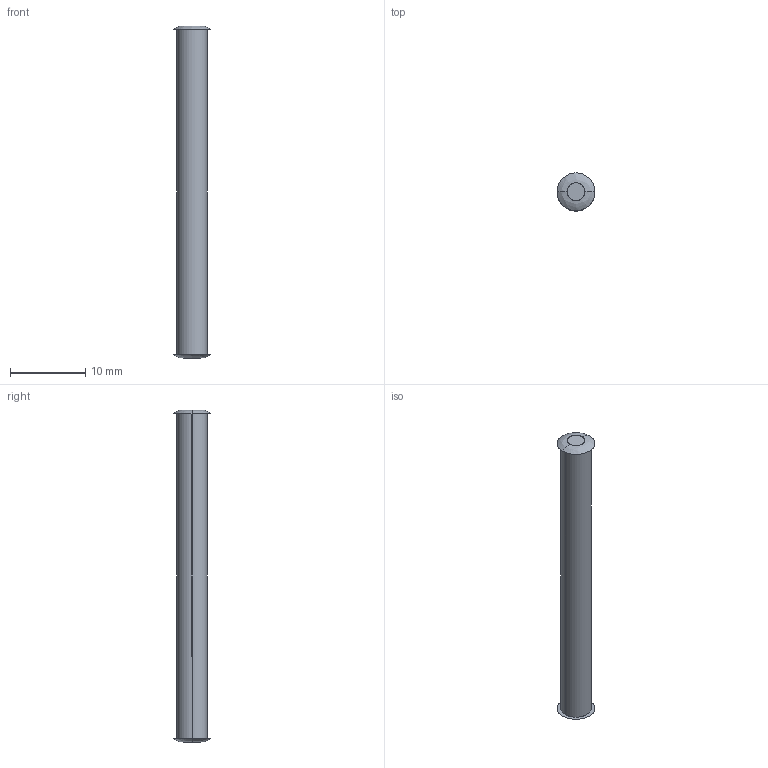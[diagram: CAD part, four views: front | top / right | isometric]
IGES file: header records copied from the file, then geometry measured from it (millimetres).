
Start section: SolidWorks IGES FILE using analytic representation for surfaces
Global section: file name: C:\Documents and Settings\lecoutey\Bureau\GE 1040\24221.040.00.IGS; native system: SolidWorks 2004 by SolidWorks Corporation; preprocessor: Version 5.3; author: lecoutey; date: 050330.085507; units: millimetre
Bounding box: 5 x 5 x 44 mm (x, y, z)
Surface area: 597.1 mm2 (no closed solid volume)
Topology: 0 solids, 0 shells, 10 faces, 216 edges, 216 vertices
Faces by surface type: bspline 8, revolution 2
